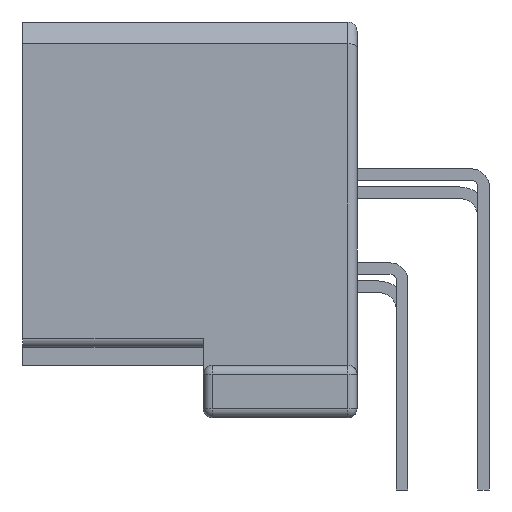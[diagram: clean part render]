
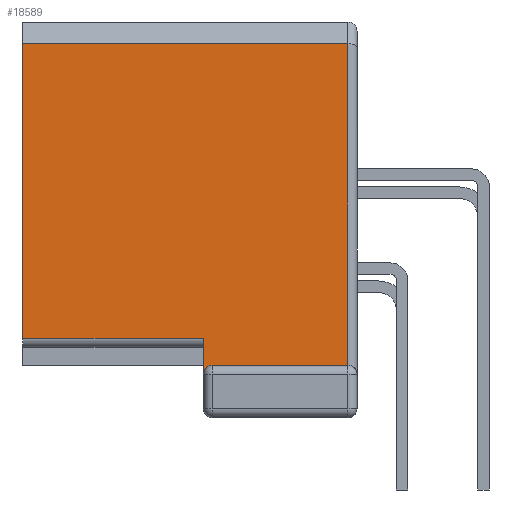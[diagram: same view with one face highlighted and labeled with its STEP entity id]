
A CAD part, left-side view. The second image highlights one B-rep face of the part: STEP entity #18589.
In plain terms, the highlighted planar face has unit normal (-1, 0, 0).
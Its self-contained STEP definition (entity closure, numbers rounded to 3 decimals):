
#18542 = VERTEX_POINT('',#18543);
#18543 = CARTESIAN_POINT('',(-113.4,7.51,20.84));
#18570 = EDGE_CURVE('',#18542,#18571,#18573,.T.);
#18571 = VERTEX_POINT('',#18572);
#18572 = CARTESIAN_POINT('',(-113.4,25.51,20.84));
#18573 = LINE('',#18574,#18575);
#18574 = CARTESIAN_POINT('',(-113.4,7.51,20.84));
#18575 = VECTOR('',#18576,1.);
#18576 = DIRECTION('',(0.,1.,0.));
#18589 = ADVANCED_FACE('',(#18590),#18648,.T.);
#18590 = FACE_BOUND('',#18591,.F.);
#18591 = EDGE_LOOP('',(#18592,#18602,#18611,#18619,#18627,#18633,#18634,
    #18642));
#18592 = ORIENTED_EDGE('',*,*,#18593,.F.);
#18593 = EDGE_CURVE('',#18594,#18596,#18598,.T.);
#18594 = VERTEX_POINT('',#18595);
#18595 = CARTESIAN_POINT('',(-113.4,15.01,3.04));
#18596 = VERTEX_POINT('',#18597);
#18597 = CARTESIAN_POINT('',(-113.4,10.21,3.04));
#18598 = LINE('',#18599,#18600);
#18599 = CARTESIAN_POINT('',(-113.4,15.01,3.04));
#18600 = VECTOR('',#18601,1.);
#18601 = DIRECTION('',(0.,-1.,0.));
#18602 = ORIENTED_EDGE('',*,*,#18603,.F.);
#18603 = EDGE_CURVE('',#18604,#18594,#18606,.T.);
#18604 = VERTEX_POINT('',#18605);
#18605 = CARTESIAN_POINT('',(-113.4,15.51,2.54));
#18606 = CIRCLE('',#18607,0.5);
#18607 = AXIS2_PLACEMENT_3D('',#18608,#18609,#18610);
#18608 = CARTESIAN_POINT('',(-113.4,15.01,2.54));
#18609 = DIRECTION('',(1.,0.,0.));
#18610 = DIRECTION('',(0.,1.,0.));
#18611 = ORIENTED_EDGE('',*,*,#18612,.T.);
#18612 = EDGE_CURVE('',#18604,#18613,#18615,.T.);
#18613 = VERTEX_POINT('',#18614);
#18614 = CARTESIAN_POINT('',(-113.4,15.51,4.54));
#18615 = LINE('',#18616,#18617);
#18616 = CARTESIAN_POINT('',(-113.4,15.51,2.54));
#18617 = VECTOR('',#18618,1.);
#18618 = DIRECTION('',(0.,0.,1.));
#18619 = ORIENTED_EDGE('',*,*,#18620,.F.);
#18620 = EDGE_CURVE('',#18621,#18613,#18623,.T.);
#18621 = VERTEX_POINT('',#18622);
#18622 = CARTESIAN_POINT('',(-113.4,25.51,4.54));
#18623 = LINE('',#18624,#18625);
#18624 = CARTESIAN_POINT('',(-113.4,25.51,4.54));
#18625 = VECTOR('',#18626,1.);
#18626 = DIRECTION('',(0.,-1.,0.));
#18627 = ORIENTED_EDGE('',*,*,#18628,.F.);
#18628 = EDGE_CURVE('',#18571,#18621,#18629,.T.);
#18629 = LINE('',#18630,#18631);
#18630 = CARTESIAN_POINT('',(-113.4,25.51,20.84));
#18631 = VECTOR('',#18632,1.);
#18632 = DIRECTION('',(0.,0.,-1.));
#18633 = ORIENTED_EDGE('',*,*,#18570,.F.);
#18634 = ORIENTED_EDGE('',*,*,#18635,.T.);
#18635 = EDGE_CURVE('',#18542,#18636,#18638,.T.);
#18636 = VERTEX_POINT('',#18637);
#18637 = CARTESIAN_POINT('',(-113.4,7.51,3.04));
#18638 = LINE('',#18639,#18640);
#18639 = CARTESIAN_POINT('',(-113.4,7.51,20.84));
#18640 = VECTOR('',#18641,1.);
#18641 = DIRECTION('',(0.,0.,-1.));
#18642 = ORIENTED_EDGE('',*,*,#18643,.F.);
#18643 = EDGE_CURVE('',#18596,#18636,#18644,.T.);
#18644 = LINE('',#18645,#18646);
#18645 = CARTESIAN_POINT('',(-113.4,10.21,3.04));
#18646 = VECTOR('',#18647,1.);
#18647 = DIRECTION('',(0.,-1.,0.));
#18648 = PLANE('',#18649);
#18649 = AXIS2_PLACEMENT_3D('',#18650,#18651,#18652);
#18650 = CARTESIAN_POINT('',(-113.4,25.51,0.14));
#18651 = DIRECTION('',(-1.,0.,0.));
#18652 = DIRECTION('',(0.,-1.,0.));
